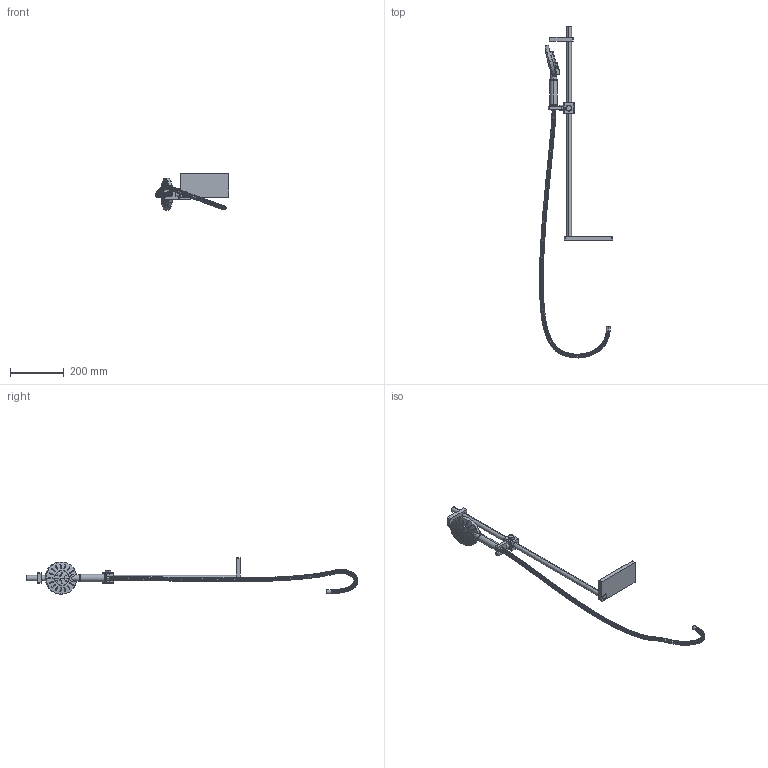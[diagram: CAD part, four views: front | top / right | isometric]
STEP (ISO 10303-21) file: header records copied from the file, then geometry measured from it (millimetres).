
FILE_DESCRIPTION (( 'STEP AP203' ), '1' );
FILE_NAME ('DS.SH463.STEP', '2022-08-08T14:50:38', ( '' ), ( '' ), 'SwSTEP 2.0', 'SolidWorks 2021', '' );
FILE_SCHEMA (( 'CONFIG_CONTROL_DESIGN' ));
Products named in the file (1): DS.SH463
Bounding box: 272.67 x 1239.8 x 135.5 mm (x, y, z)
Volume: 913345.5 mm3; surface area: 296929 mm2
Topology: 21 solids, 21 shells, 1155 faces, 2939 edges, 1831 vertices
Faces by surface type: cylinder 454, bspline 363, plane 252, torus 74, sphere 10, cone 2
Entity records: 109446 total; most frequent: CARTESIAN_POINT 84520, ORIENTED_EDGE 5860, DIRECTION 4003, EDGE_CURVE 2930, VERTEX_POINT 1831, AXIS2_PLACEMENT_3D 1534, EDGE_LOOP 1343, B_SPLINE_CURVE_WITH_KNOTS 1176
